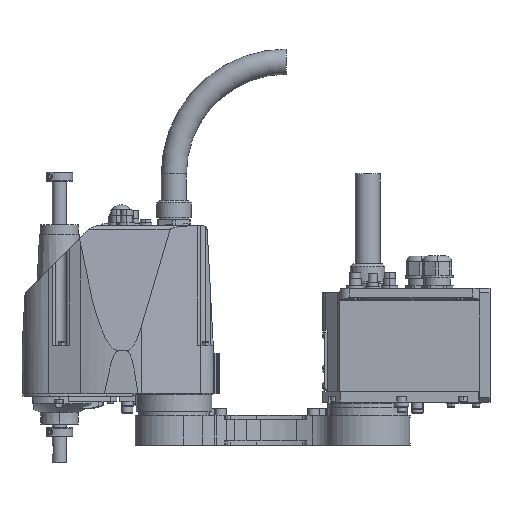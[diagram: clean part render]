
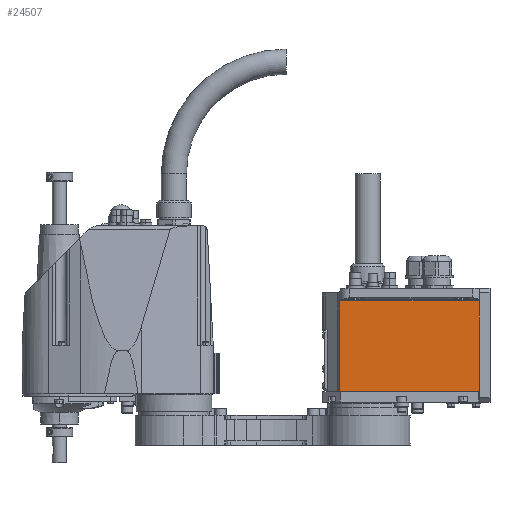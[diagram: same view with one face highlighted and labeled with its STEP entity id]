
A CAD part, top view. The second image highlights one B-rep face of the part: STEP entity #24507.
In plain terms, the highlighted planar face has unit normal (0, 0, 1).
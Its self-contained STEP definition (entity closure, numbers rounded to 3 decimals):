
#12359 = VERTEX_POINT( '', #31590 );
#19367 = EDGE_CURVE( '', #23187, #21963, #39385, .T. );
#21063 = EDGE_CURVE( '', #12359, #21963, #41269, .T. );
#21963 = VERTEX_POINT( '', #42264 );
#22579 = EDGE_CURVE( '', #23363, #23187, #42945, .T. );
#23187 = VERTEX_POINT( '', #43619 );
#23219 = EDGE_CURVE( '', #12359, #23363, #43654, .T. );
#23363 = VERTEX_POINT( '', #43813 );
#24507 = ADVANCED_FACE( '', ( #45081 ), #45082, .T. );
#31590 = CARTESIAN_POINT( '', ( -31.897, 142., 50.5 ) );
#39385 = LINE( '', #65002, #65003 );
#41269 = LINE( '', #67674, #67675 );
#42264 = CARTESIAN_POINT( '', ( 127., 142., 50.5 ) );
#42945 = LINE( '', #70076, #70077 );
#43619 = CARTESIAN_POINT( '', ( 127., 39., 50.5 ) );
#43654 = LINE( '', #71079, #71080 );
#43813 = CARTESIAN_POINT( '', ( -31.897, 39., 50.5 ) );
#45081 = FACE_OUTER_BOUND( '', #73106, .T. );
#45082 = PLANE( '', #73107 );
#65002 = CARTESIAN_POINT( '', ( 127., 142., 50.5 ) );
#65003 = VECTOR( '', #92311, 1. );
#67674 = CARTESIAN_POINT( '', ( -51.5, 142., 50.5 ) );
#67675 = VECTOR( '', #94515, 1. );
#70076 = CARTESIAN_POINT( '', ( -51.5, 39., 50.5 ) );
#70077 = VECTOR( '', #96389, 1. );
#71079 = CARTESIAN_POINT( '', ( -31.897, 90.5, 50.5 ) );
#71080 = VECTOR( '', #97151, 1. );
#73106 = EDGE_LOOP( '', ( #98793, #98794, #98795, #98796 ) );
#73107 = AXIS2_PLACEMENT_3D( '', #98797, #98798, #98799 );
#92311 = DIRECTION( '', ( 0., 1., 0. ) );
#94515 = DIRECTION( '', ( 1., 0., 0. ) );
#96389 = DIRECTION( '', ( 1., 0., 0. ) );
#97151 = DIRECTION( '', ( 0., -1., 0. ) );
#98793 = ORIENTED_EDGE( '', *, *, #23219, .T. );
#98794 = ORIENTED_EDGE( '', *, *, #22579, .T. );
#98795 = ORIENTED_EDGE( '', *, *, #19367, .T. );
#98796 = ORIENTED_EDGE( '', *, *, #21063, .F. );
#98797 = CARTESIAN_POINT( '', ( -51.5, 39., 50.5 ) );
#98798 = DIRECTION( '', ( 0., 0., 1. ) );
#98799 = DIRECTION( '', ( 0., -1., 0. ) );
